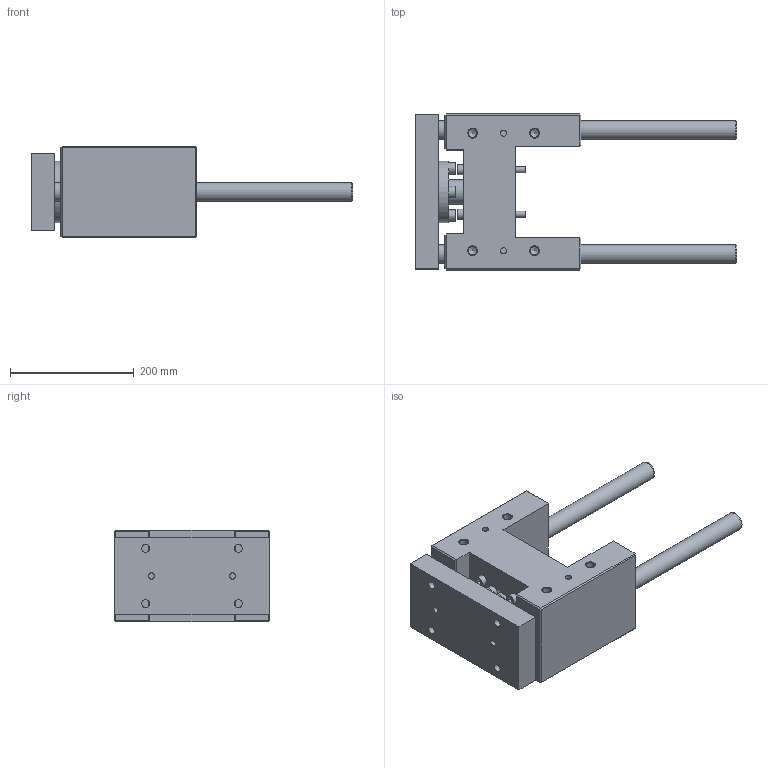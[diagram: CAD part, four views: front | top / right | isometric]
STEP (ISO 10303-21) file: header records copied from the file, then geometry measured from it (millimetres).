
FILE_DESCRIPTION( ( 'STEP AP214' ), '1' );
FILE_NAME( 'U:/Etudes/Top Solid/BIBLIO 3D AVM/TOP/PNEUMATIQUE/GUIDAGES/Type 32 (en H)/R_Renforcée/328R4230.step', '2005-05-27T09:14:50', ( ' ' ), ( ' ' ), 'XStep 1.0', ' ', ' ' );
FILE_SCHEMA( ( 'automotive_design' ) );
Length unit declared in the file: metre
Products named in the file (2): 1; 2
Bounding box: 520 x 252 x 148 mm (x, y, z)
Volume: 6674093.8 mm3; surface area: 553018.9 mm2
Topology: 2 solids, 7 shells, 239 faces, 527 edges, 341 vertices
Faces by surface type: plane 149, cylinder 69, cone 21
Full cylindrical faces by diameter (mm): 10 x12, 10.106 x4, 11 x4, 12 x8, 13 x8, 13.835 x8, 16 x4, 18 x4, 18.376 x2, 20 x4, 30 x4, 39 x1, 42 x1, 45 x1, 57 x1, 60 x1, 65 x1, 100 x1
Entity records: 7933 total; most frequent: CARTESIAN_POINT 1201, DIRECTION 1000, ORIENTED_EDGE 786, EDGE_CURVE 393, EDGE_LOOP 392, AXIS2_PLACEMENT_3D 374, FACE_OUTER_BOUND 308, VERTEX_POINT 303
